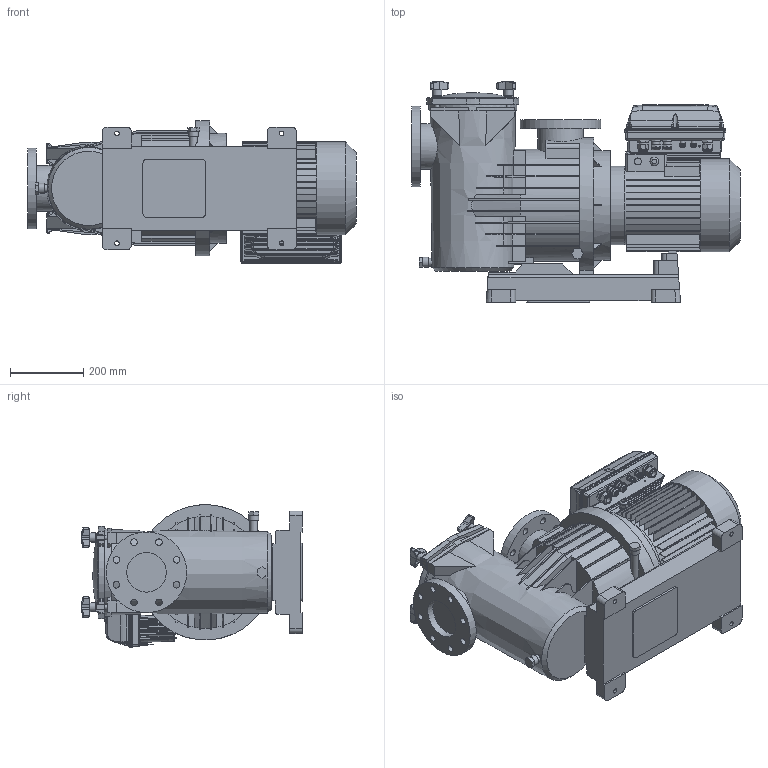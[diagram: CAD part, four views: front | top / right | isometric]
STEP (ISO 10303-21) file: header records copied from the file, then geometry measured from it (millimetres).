
FILE_DESCRIPTION(/* description */ ('CAx-IF Rec.Pracs.---Representation and Presentation of Product Manufacturing Information (PMI)---4.0---2014-10-13','CAx-IF Rec.Pracs.---3D Tessellated Geometry---0.4---2014-09-14','2;1'),/* implementation_level */ '2;1');
FILE_NAME(/* name */ 'MAGNUS MEC 132 (750 1000 1250 1500) + Variador',/* time_stamp */ '2024-01-09T09:46:17+01:00',/* author */ ('P.POROPAT'),/* organization */ ('SACI'),/* preprocessor_version */ 'ST-DEVELOPER v18.1',/* originating_system */ 'Solid Edge',/* authorisation */ 'Unknown');
FILE_SCHEMA (('AP242_MANAGED_MODEL_BASED_3D_ENGINEERING_MIM_LF { 1 0 10303 442 1 1 4 }'));
Products named in the file (3): MAGNUS MEC 132 (750 1000 1250 1500) + Variador; MAGNUS 750; 0100000000045
Assembly tree (2 placements, depth 2):
  MAGNUS MEC 132 (750 1000 1250 1500) + Variador
    MAGNUS 750
    0100000000045
Bounding box: 898 x 603.5 x 389.64 mm (x, y, z)
Volume: 77467904.9 mm3; surface area: 3105308.9 mm2
Topology: 2 solids, 45 shells, 2835 faces, 6993 edges, 4297 vertices
Faces by surface type: plane 1204, cylinder 943, bspline 351, cone 161, torus 123, sphere 53
Full cylindrical faces by diameter (mm): 1.9 x4, 4.134 x10, 4.2 x8, 4.6 x2, 5 x8, 5.5 x8, 6.5 x5, 6.565 x2, 7.606 x2, 9 x2, 9.5 x8, 10.355 x2, 12 x8, 12.12 x2, 12.285 x2, 12.5 x12, 13 x1, 13.393 x2, 15 x4, 17.5 x4, 18 x19, 19 x2, 20 x3, 20.5 x2, 21 x4, 21.429 x2, 22.5 x4, 23 x3, 24 x4, 25 x4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
Entity records: 90630 total; most frequent: CARTESIAN_POINT 27847, ORIENTED_EDGE 12972, DIRECTION 12585, EDGE_CURVE 6486, AXIS2_PLACEMENT_3D 4784, VERTEX_POINT 4148, FACE_BOUND 3340, EDGE_LOOP 3330
